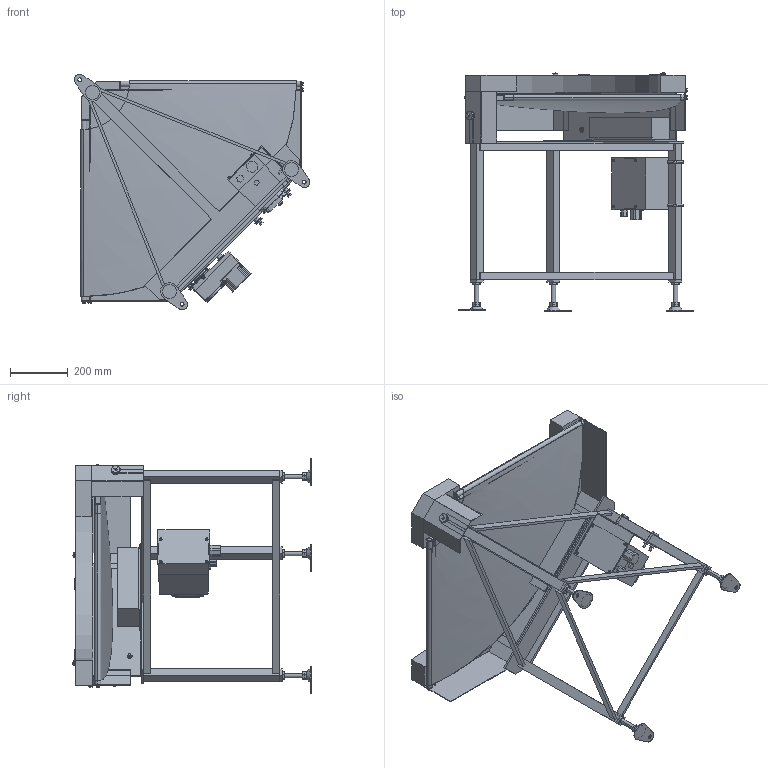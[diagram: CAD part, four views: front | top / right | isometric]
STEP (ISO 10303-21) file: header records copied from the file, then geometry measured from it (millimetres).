
FILE_DESCRIPTION (( 'STEP AP214' ), '1' );
FILE_NAME ('GFBC90-HS500-DC-L.STEP', '2024-01-18T02:51:51', ( '' ), ( '' ), 'SwSTEP 2.0', 'SolidWorks 2017', '' );
FILE_SCHEMA (( 'AUTOMOTIVE_DESIGN' ));
Length unit declared in the file: millimetre
Products named in the file (1): GFBC90-HS500-DC-L
Bounding box: 818.17 x 827.92 x 818.17 mm (x, y, z)
Volume: 21956732.5 mm3; surface area: 4970544.8 mm2
Topology: 64 solids, 65 shells, 1405 faces, 3283 edges, 2098 vertices
Faces by surface type: plane 860, cylinder 408, cone 73, bspline 40, torus 20, sphere 4
Entity records: 47281 total; most frequent: CARTESIAN_POINT 14139, DIRECTION 6764, ORIENTED_EDGE 6518, EDGE_CURVE 3259, AXIS2_PLACEMENT_3D 2340, VERTEX_POINT 2098, VECTOR 2084, LINE 2084
